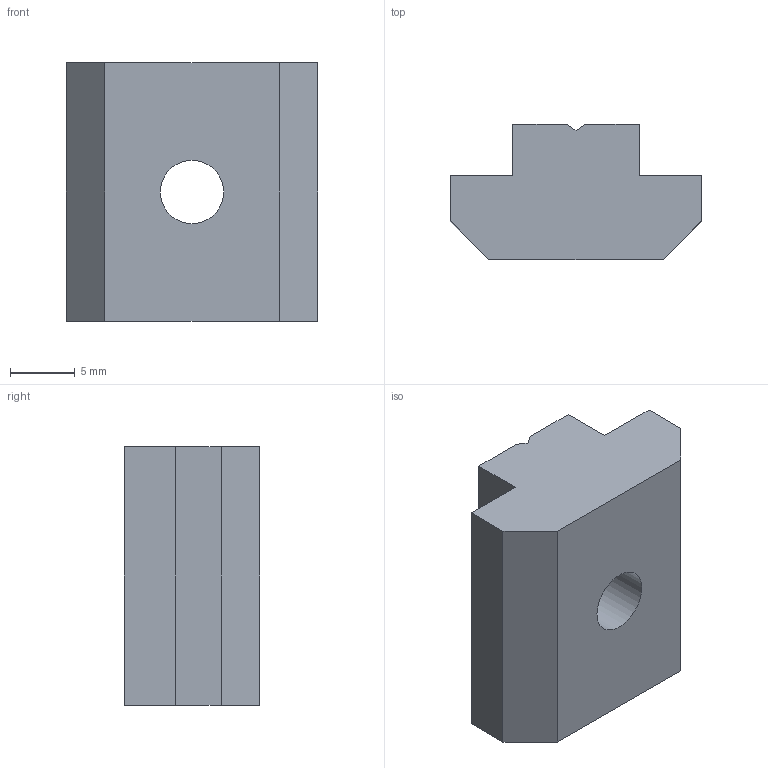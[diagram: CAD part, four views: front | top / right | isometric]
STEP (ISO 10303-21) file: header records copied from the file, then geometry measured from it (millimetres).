
FILE_DESCRIPTION((''),'2;1');
FILE_NAME('E:\catalogue and flyer\Profile catalogue 2015\Accessories JE info\Accessories-JE step file 31MAr16\JE-SB6-10.stp','2016-04-07T11:37:48',('h029'),(''),'Autodesk Inventor 11','Autodesk Inventor 11','');
FILE_SCHEMA(('AUTOMOTIVE_DESIGN { 1 0 10303 214 1 1 1 1 }'));
Length unit declared in the file: millimetre
Products named in the file (1): JE-SB6-10
Bounding box: 19.5 x 10.5 x 20 mm (x, y, z)
Volume: 2932.2 mm3; surface area: 1567 mm2
Topology: 1 solids, 1 shells, 20 faces, 53 edges, 34 vertices
Faces by surface type: plane 17, cone 2, bspline 1
Entity records: 640 total; most frequent: CARTESIAN_POINT 122, ORIENTED_EDGE 102, DIRECTION 100, EDGE_CURVE 51, VECTOR 42, LINE 42, VERTEX_POINT 33, AXIS2_PLACEMENT_3D 29
